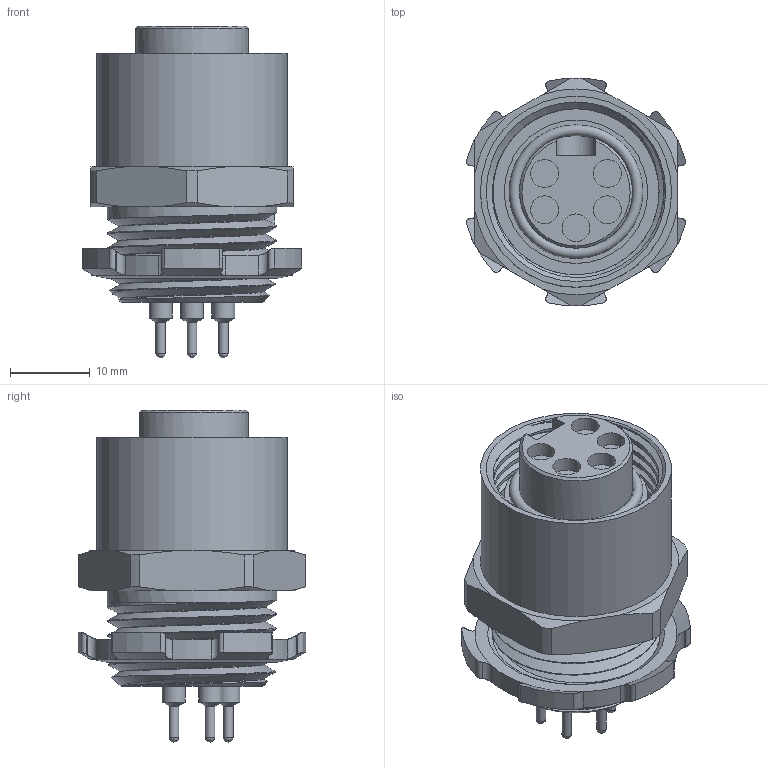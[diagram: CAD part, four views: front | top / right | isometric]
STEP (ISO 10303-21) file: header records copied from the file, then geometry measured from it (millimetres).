
FILE_DESCRIPTION (( 'STEP AP203' ), '1' );
FILE_NAME ('CM03A-PR5S-D(R1).STEP', '2022-04-06T08:02:18', ( '' ), ( '' ), 'SwSTEP 2.0', 'SolidWorks 2018', '' );
FILE_SCHEMA (( 'CONFIG_CONTROL_DESIGN' ));
Length unit declared in the file: millimetre
Products named in the file (1): CM03A-PR5S-D(R1)
Bounding box: 27.61 x 28.61 x 41.7 mm (x, y, z)
Volume: 13002.1 mm3; surface area: 6002.4 mm2
Topology: 1 solids, 1 shells, 161 faces, 408 edges, 255 vertices
Faces by surface type: cylinder 68, plane 39, cone 36, bspline 12, sphere 5, torus 1
Full cylindrical faces by diameter (mm): 1.2 x5, 2.9 x5, 3.5 x5, 14.2 x1, 18 x1, 20.86 x4, 21.34 x1, 24 x1
Entity records: 10337 total; most frequent: CARTESIAN_POINT 6988, ORIENTED_EDGE 684, DIRECTION 605, EDGE_CURVE 342, AXIS2_PLACEMENT_3D 260, VERTEX_POINT 233, EDGE_LOOP 205, FACE_OUTER_BOUND 177
